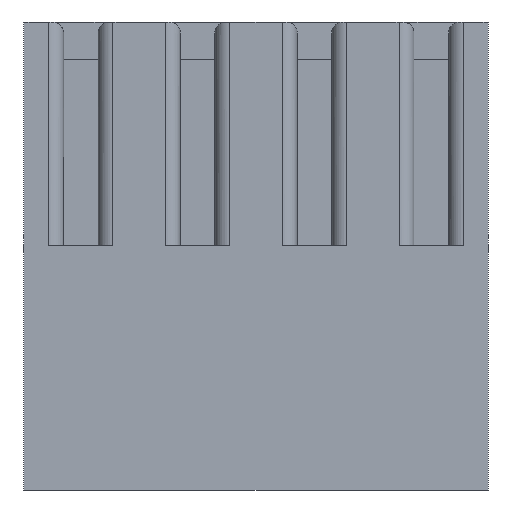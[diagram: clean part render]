
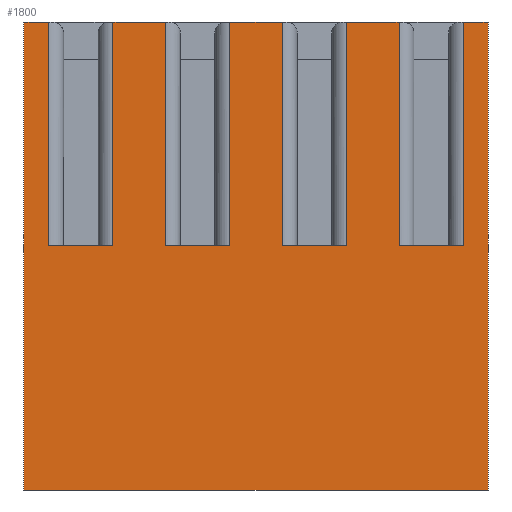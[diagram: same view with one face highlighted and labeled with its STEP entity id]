
A CAD part, front view. The second image highlights one B-rep face of the part: STEP entity #1800.
In plain terms, the highlighted planar face has unit normal (0, -1, 0).
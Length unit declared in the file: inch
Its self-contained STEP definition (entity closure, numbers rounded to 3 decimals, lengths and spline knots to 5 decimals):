
#5=DIRECTION('',(0.,0.,-1.));
#6=VECTOR('',#5,0.625);
#7=CARTESIAN_POINT('',(-0.31,0.,0.));
#8=LINE('',#7,#6);
#225=DIRECTION('',(1.,0.,0.));
#226=VECTOR('',#225,0.62);
#227=CARTESIAN_POINT('',(-0.31,0.,-0.625));
#228=LINE('',#227,#226);
#293=DIRECTION('',(1.,0.,0.));
#294=VECTOR('',#293,0.033);
#295=CARTESIAN_POINT('',(0.277,0.,0.));
#296=LINE('',#295,#294);
#297=DIRECTION('',(1.,0.,0.));
#298=VECTOR('',#297,0.033);
#299=CARTESIAN_POINT('',(-0.31,0.,0.));
#300=LINE('',#299,#298);
#301=DIRECTION('',(1.,0.,0.));
#302=VECTOR('',#301,0.07);
#303=CARTESIAN_POINT('',(-0.191,0.,0.));
#304=LINE('',#303,#302);
#305=DIRECTION('',(1.,0.,0.));
#306=VECTOR('',#305,0.07);
#307=CARTESIAN_POINT('',(-0.035,0.,0.));
#308=LINE('',#307,#306);
#309=DIRECTION('',(1.,0.,0.));
#310=VECTOR('',#309,0.07);
#311=CARTESIAN_POINT('',(0.121,0.,0.));
#312=LINE('',#311,#310);
#313=DIRECTION('',(0.,0.,-1.));
#314=VECTOR('',#313,0.299);
#315=CARTESIAN_POINT('',(0.277,0.,0.));
#316=LINE('',#315,#314);
#346=DIRECTION('',(-1.,0.,0.));
#347=VECTOR('',#346,0.086);
#348=CARTESIAN_POINT('',(0.277,0.,-0.299));
#349=LINE('',#348,#347);
#442=DIRECTION('',(0.,0.,1.));
#443=VECTOR('',#442,0.299);
#444=CARTESIAN_POINT('',(0.191,0.,-0.299));
#445=LINE('',#444,#443);
#521=DIRECTION('',(0.,0.,-1.));
#522=VECTOR('',#521,0.625);
#523=CARTESIAN_POINT('',(0.31,0.,0.));
#524=LINE('',#523,#522);
#593=DIRECTION('',(0.,0.,1.));
#594=VECTOR('',#593,0.299);
#595=CARTESIAN_POINT('',(-0.277,0.,-0.299));
#596=LINE('',#595,#594);
#660=DIRECTION('',(-1.,0.,0.));
#661=VECTOR('',#660,0.086);
#662=CARTESIAN_POINT('',(-0.191,0.,-0.299));
#663=LINE('',#662,#661);
#684=DIRECTION('',(0.,0.,-1.));
#685=VECTOR('',#684,0.299);
#686=CARTESIAN_POINT('',(-0.191,0.,0.));
#687=LINE('',#686,#685);
#713=DIRECTION('',(0.,0.,1.));
#714=VECTOR('',#713,0.299);
#715=CARTESIAN_POINT('',(-0.121,0.,-0.299));
#716=LINE('',#715,#714);
#816=DIRECTION('',(0.,0.,-1.));
#817=VECTOR('',#816,0.299);
#818=CARTESIAN_POINT('',(-0.035,0.,0.));
#819=LINE('',#818,#817);
#849=DIRECTION('',(-1.,0.,0.));
#850=VECTOR('',#849,0.086);
#851=CARTESIAN_POINT('',(-0.035,0.,-0.299));
#852=LINE('',#851,#850);
#909=DIRECTION('',(0.,0.,1.));
#910=VECTOR('',#909,0.299);
#911=CARTESIAN_POINT('',(0.035,0.,-0.299));
#912=LINE('',#911,#910);
#1012=DIRECTION('',(0.,0.,-1.));
#1013=VECTOR('',#1012,0.299);
#1014=CARTESIAN_POINT('',(0.121,0.,0.));
#1015=LINE('',#1014,#1013);
#1045=DIRECTION('',(-1.,0.,0.));
#1046=VECTOR('',#1045,0.086);
#1047=CARTESIAN_POINT('',(0.121,0.,-0.299));
#1048=LINE('',#1047,#1046);
#1106=CARTESIAN_POINT('',(-0.31,0.,0.));
#1108=VERTEX_POINT('',#1106);
#1109=CARTESIAN_POINT('',(-0.31,0.,-0.625));
#1110=VERTEX_POINT('',#1109);
#1114=CARTESIAN_POINT('',(0.31,0.,0.));
#1116=VERTEX_POINT('',#1114);
#1117=CARTESIAN_POINT('',(0.31,0.,-0.625));
#1118=VERTEX_POINT('',#1117);
#1217=CARTESIAN_POINT('',(-0.191,0.,0.));
#1218=CARTESIAN_POINT('',(-0.191,0.,-0.299));
#1219=VERTEX_POINT('',#1217);
#1220=VERTEX_POINT('',#1218);
#1226=CARTESIAN_POINT('',(-0.277,0.,-0.299));
#1227=CARTESIAN_POINT('',(-0.277,0.,0.));
#1228=VERTEX_POINT('',#1226);
#1229=VERTEX_POINT('',#1227);
#1234=CARTESIAN_POINT('',(-0.035,0.,0.));
#1235=CARTESIAN_POINT('',(-0.035,0.,-0.299));
#1236=VERTEX_POINT('',#1234);
#1237=VERTEX_POINT('',#1235);
#1243=CARTESIAN_POINT('',(-0.121,0.,-0.299));
#1244=CARTESIAN_POINT('',(-0.121,0.,0.));
#1245=VERTEX_POINT('',#1243);
#1246=VERTEX_POINT('',#1244);
#1251=CARTESIAN_POINT('',(0.121,0.,0.));
#1252=CARTESIAN_POINT('',(0.121,0.,-0.299));
#1253=VERTEX_POINT('',#1251);
#1254=VERTEX_POINT('',#1252);
#1260=CARTESIAN_POINT('',(0.035,0.,-0.299));
#1261=CARTESIAN_POINT('',(0.035,0.,0.));
#1262=VERTEX_POINT('',#1260);
#1263=VERTEX_POINT('',#1261);
#1268=CARTESIAN_POINT('',(0.277,0.,0.));
#1269=CARTESIAN_POINT('',(0.277,0.,-0.299));
#1270=VERTEX_POINT('',#1268);
#1271=VERTEX_POINT('',#1269);
#1277=CARTESIAN_POINT('',(0.191,0.,-0.299));
#1278=CARTESIAN_POINT('',(0.191,0.,0.));
#1279=VERTEX_POINT('',#1277);
#1280=VERTEX_POINT('',#1278);
#1760=CARTESIAN_POINT('',(-0.31,0.,0.));
#1761=DIRECTION('',(0.,-1.,0.));
#1762=DIRECTION('',(0.,0.,-1.));
#1763=AXIS2_PLACEMENT_3D('',#1760,#1761,#1762);
#1764=PLANE('',#1763);
#1766=ORIENTED_EDGE('',*,*,#1765,.F.);
#1767=ORIENTED_EDGE('',*,*,#1446,.T.);
#1769=ORIENTED_EDGE('',*,*,#1768,.T.);
#1770=ORIENTED_EDGE('',*,*,#1715,.F.);
#1771=ORIENTED_EDGE('',*,*,#1428,.F.);
#1772=ORIENTED_EDGE('',*,*,#1494,.T.);
#1774=ORIENTED_EDGE('',*,*,#1773,.F.);
#1776=ORIENTED_EDGE('',*,*,#1775,.F.);
#1778=ORIENTED_EDGE('',*,*,#1777,.F.);
#1779=ORIENTED_EDGE('',*,*,#1482,.T.);
#1781=ORIENTED_EDGE('',*,*,#1780,.F.);
#1783=ORIENTED_EDGE('',*,*,#1782,.F.);
#1785=ORIENTED_EDGE('',*,*,#1784,.F.);
#1786=ORIENTED_EDGE('',*,*,#1470,.T.);
#1788=ORIENTED_EDGE('',*,*,#1787,.F.);
#1790=ORIENTED_EDGE('',*,*,#1789,.F.);
#1792=ORIENTED_EDGE('',*,*,#1791,.F.);
#1793=ORIENTED_EDGE('',*,*,#1458,.T.);
#1795=ORIENTED_EDGE('',*,*,#1794,.F.);
#1797=ORIENTED_EDGE('',*,*,#1796,.F.);
#1798=EDGE_LOOP('',(#1766,#1767,#1769,#1770,#1771,#1772,#1774,#1776,#1778,#1779,
#1781,#1783,#1785,#1786,#1788,#1790,#1792,#1793,#1795,#1797));
#1799=FACE_OUTER_BOUND('',#1798,.F.);
#1800=ADVANCED_FACE('',(#1799),#1764,.T.);
#1428=EDGE_CURVE('',#1108,#1110,#8,.T.);
#1446=EDGE_CURVE('',#1270,#1116,#296,.T.);
#1458=EDGE_CURVE('',#1253,#1280,#312,.T.);
#1470=EDGE_CURVE('',#1236,#1263,#308,.T.);
#1482=EDGE_CURVE('',#1219,#1246,#304,.T.);
#1494=EDGE_CURVE('',#1108,#1229,#300,.T.);
#1715=EDGE_CURVE('',#1110,#1118,#228,.T.);
#1765=EDGE_CURVE('',#1270,#1271,#316,.T.);
#1768=EDGE_CURVE('',#1116,#1118,#524,.T.);
#1773=EDGE_CURVE('',#1228,#1229,#596,.T.);
#1775=EDGE_CURVE('',#1220,#1228,#663,.T.);
#1777=EDGE_CURVE('',#1219,#1220,#687,.T.);
#1780=EDGE_CURVE('',#1245,#1246,#716,.T.);
#1782=EDGE_CURVE('',#1237,#1245,#852,.T.);
#1784=EDGE_CURVE('',#1236,#1237,#819,.T.);
#1787=EDGE_CURVE('',#1262,#1263,#912,.T.);
#1789=EDGE_CURVE('',#1254,#1262,#1048,.T.);
#1791=EDGE_CURVE('',#1253,#1254,#1015,.T.);
#1794=EDGE_CURVE('',#1279,#1280,#445,.T.);
#1796=EDGE_CURVE('',#1271,#1279,#349,.T.);
